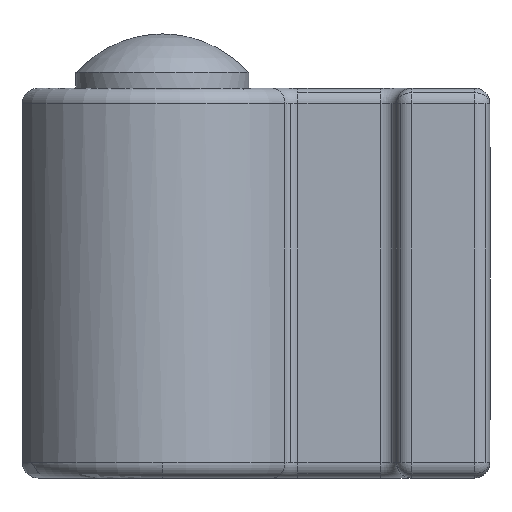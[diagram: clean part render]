
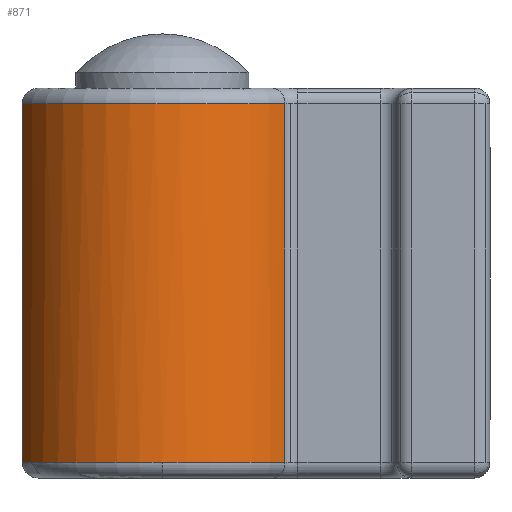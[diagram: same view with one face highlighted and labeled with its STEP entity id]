
A CAD part, left-side view. The second image highlights one B-rep face of the part: STEP entity #871.
In plain terms, the highlighted cylindrical face has radius 9.5 mm (diameter 19 mm), a partial arc.
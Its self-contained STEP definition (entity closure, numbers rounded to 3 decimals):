
#37 = LINE ( 'NONE', #3718, #1147 ) ;
#60 = VECTOR ( 'NONE', #3366, 1000. ) ;
#157 = DIRECTION ( 'NONE',  ( 0., 0., 1. ) ) ;
#171 = CARTESIAN_POINT ( 'NONE',  ( -9.5, 21., -11.5 ) ) ;
#291 = VERTEX_POINT ( 'NONE', #2015 ) ;
#315 = EDGE_CURVE ( 'NONE', #291, #3307, #3706, .T. ) ;
#321 = ORIENTED_EDGE ( 'NONE', *, *, #2694, .F. ) ;
#482 = CARTESIAN_POINT ( 'NONE',  ( 0., 21., 11.5 ) ) ;
#519 = DIRECTION ( 'NONE',  ( -0.32, 0.947, 0. ) ) ;
#665 = ORIENTED_EDGE ( 'NONE', *, *, #2890, .F. ) ;
#744 = EDGE_LOOP ( 'NONE', ( #3949, #1113, #1705, #321, #665 ) ) ;
#847 = DIRECTION ( 'NONE',  ( -0.994, 0.108, 0. ) ) ;
#871 = ADVANCED_FACE ( 'NONE', ( #2026 ), #1461, .T. ) ;
#912 = VERTEX_POINT ( 'NONE', #171 ) ;
#958 = CARTESIAN_POINT ( 'NONE',  ( -3.041, 30., -11.5 ) ) ;
#989 = LINE ( 'NONE', #2531, #60 ) ;
#1027 = CIRCLE ( 'NONE', #2685, 9.5 ) ;
#1113 = ORIENTED_EDGE ( 'NONE', *, *, #3653, .F. ) ;
#1129 = CARTESIAN_POINT ( 'NONE',  ( 0., 21., -11.5 ) ) ;
#1147 = VECTOR ( 'NONE', #1223, 1000. ) ;
#1223 = DIRECTION ( 'NONE',  ( 0., 0., 1. ) ) ;
#1461 = CYLINDRICAL_SURFACE ( 'NONE', #2233, 9.5 ) ;
#1705 = ORIENTED_EDGE ( 'NONE', *, *, #315, .F. ) ;
#1766 = EDGE_CURVE ( 'NONE', #2927, #912, #3570, .T. ) ;
#2015 = CARTESIAN_POINT ( 'NONE',  ( -3.041, 30., 11.5 ) ) ;
#2026 = FACE_OUTER_BOUND ( 'NONE', #744, .T. ) ;
#2233 = AXIS2_PLACEMENT_3D ( 'NONE', #3880, #3561, #519 ) ;
#2328 = VERTEX_POINT ( 'NONE', #958 ) ;
#2392 = DIRECTION ( 'NONE',  ( -0.994, 0.108, 0. ) ) ;
#2531 = CARTESIAN_POINT ( 'NONE',  ( -5.338, 13.142, 0. ) ) ;
#2685 = AXIS2_PLACEMENT_3D ( 'NONE', #1129, #3234, #847 ) ;
#2694 = EDGE_CURVE ( 'NONE', #2328, #291, #37, .T. ) ;
#2890 = EDGE_CURVE ( 'NONE', #912, #2328, #1027, .T. ) ;
#2927 = VERTEX_POINT ( 'NONE', #3835 ) ;
#2948 = DIRECTION ( 'NONE',  ( 0., 0., -1. ) ) ;
#3025 = CARTESIAN_POINT ( 'NONE',  ( -5.338, 13.142, 11.5 ) ) ;
#3228 = DIRECTION ( 'NONE',  ( -0.994, 0.108, 0. ) ) ;
#3234 = DIRECTION ( 'NONE',  ( 0., 0., -1. ) ) ;
#3248 = AXIS2_PLACEMENT_3D ( 'NONE', #3289, #2948, #2392 ) ;
#3289 = CARTESIAN_POINT ( 'NONE',  ( 0., 21., -11.5 ) ) ;
#3307 = VERTEX_POINT ( 'NONE', #3025 ) ;
#3366 = DIRECTION ( 'NONE',  ( 0., 0., -1. ) ) ;
#3561 = DIRECTION ( 'NONE',  ( 0., 0., -1. ) ) ;
#3570 = CIRCLE ( 'NONE', #3248, 9.5 ) ;
#3653 = EDGE_CURVE ( 'NONE', #3307, #2927, #989, .T. ) ;
#3706 = CIRCLE ( 'NONE', #3900, 9.5 ) ;
#3718 = CARTESIAN_POINT ( 'NONE',  ( -3.041, 30., 0. ) ) ;
#3835 = CARTESIAN_POINT ( 'NONE',  ( -5.338, 13.142, -11.5 ) ) ;
#3880 = CARTESIAN_POINT ( 'NONE',  ( 0., 21., 0. ) ) ;
#3900 = AXIS2_PLACEMENT_3D ( 'NONE', #482, #157, #3228 ) ;
#3949 = ORIENTED_EDGE ( 'NONE', *, *, #1766, .F. ) ;
